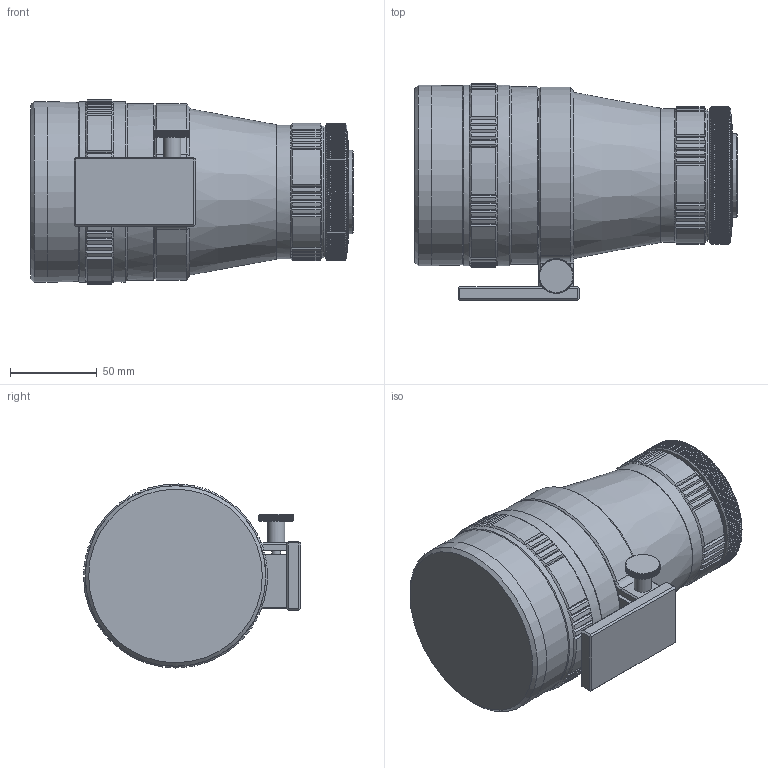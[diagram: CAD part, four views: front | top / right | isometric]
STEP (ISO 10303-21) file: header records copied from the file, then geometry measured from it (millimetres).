
FILE_DESCRIPTION((''),'2;1');
FILE_NAME('C:\Users\dblandino\Desktop\C1116_001_001.stp','2014-04-28T12:23:39',('dblandino'),(''),'Autodesk Inventor 2010','Autodesk Inventor 2010','');
FILE_SCHEMA(('AUTOMOTIVE_DESIGN { 1 0 10303 214 1 1 1 1 }'));
Length unit declared in the file: millimetre
Products named in the file (2): C1116_001_001.iam (Livello di dettaglio sostituto1); C1116_001_001_SUB
Assembly tree (1 placements, depth 2):
  C1116_001_001.iam (Livello di dettaglio sostituto1)
    C1116_001_001_SUB
Bounding box: 185.78 x 124.99 x 105.97 mm (x, y, z)
Volume: 1300186 mm3; surface area: 79979.6 mm2
Topology: 1 solids, 1 shells, 1343 faces, 3700 edges, 2366 vertices
Faces by surface type: plane 795, cylinder 370, cone 166, bspline 6, torus 5, sphere 1
Full cylindrical faces by diameter (mm): 5 x1, 10 x1, 48 x1, 76 x1, 77 x1, 102 x1, 104 x3
Entity records: 42498 total; most frequent: CARTESIAN_POINT 10515, ORIENTED_EDGE 7320, DIRECTION 5901, EDGE_CURVE 3660, VERTEX_POINT 2355, AXIS2_PLACEMENT_3D 2305, EDGE_LOOP 1383, FACE_OUTER_BOUND 1343
